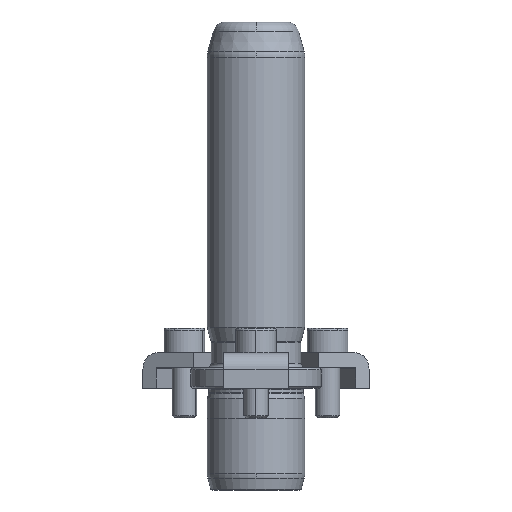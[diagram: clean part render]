
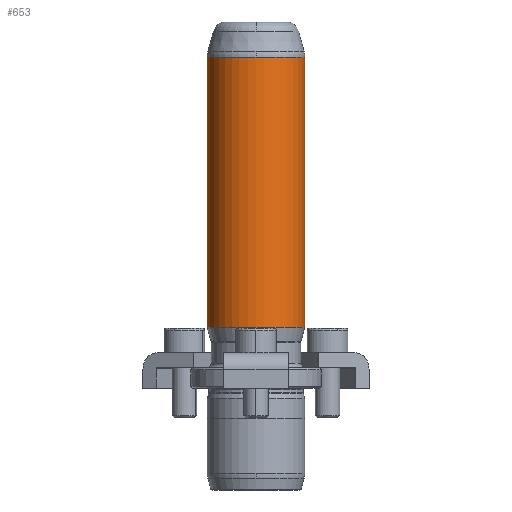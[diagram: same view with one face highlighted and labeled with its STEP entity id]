
A CAD part, front view. The second image highlights one B-rep face of the part: STEP entity #653.
In plain terms, the highlighted cylindrical face has radius 12 mm (diameter 24 mm), a partial arc.
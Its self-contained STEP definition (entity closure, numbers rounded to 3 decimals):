
#566=CARTESIAN_POINT('',(0.0,-12.,81.342));
#567=VERTEX_POINT('',#566);
#594=CARTESIAN_POINT('',(-12.0,0.,81.342));
#595=VERTEX_POINT('',#594);
#603=CARTESIAN_POINT('',(0.0,0.,81.342));
#604=DIRECTION('',(0.0,0.0,1.0));
#605=DIRECTION('',(1.0,0.0,0.0));
#606=AXIS2_PLACEMENT_3D('',#603,#604,#605);
#607=CIRCLE('',#606,12.0);
#608=EDGE_CURVE('',#595,#567,#607,.T.);
#613=CARTESIAN_POINT('',(0.0,0.,48.171));
#614=DIRECTION('',(0.0,0.,1.0));
#615=DIRECTION('',(1.0,0.0,0.0));
#616=AXIS2_PLACEMENT_3D('',#613,#614,#615);
#617=CYLINDRICAL_SURFACE('',#616,12.0);
#618=CARTESIAN_POINT('',(12.0,0.,81.342));
#619=VERTEX_POINT('',#618);
#620=CARTESIAN_POINT('',(12.0,0.,15.0));
#621=VERTEX_POINT('',#620);
#622=CARTESIAN_POINT('',(12.0,0.,81.342));
#623=DIRECTION('',(0.0,0.0,-1.0));
#624=VECTOR('',#623,66.342);
#625=LINE('',#622,#624);
#626=EDGE_CURVE('',#619,#621,#625,.T.);
#627=ORIENTED_EDGE('',*,*,#626,.F.);
#628=CARTESIAN_POINT('',(0.0,0.,81.342));
#629=DIRECTION('',(0.0,0.0,1.0));
#630=DIRECTION('',(1.0,0.0,0.0));
#631=AXIS2_PLACEMENT_3D('',#628,#629,#630);
#632=CIRCLE('',#631,12.0);
#633=EDGE_CURVE('',#567,#619,#632,.T.);
#634=ORIENTED_EDGE('',*,*,#633,.F.);
#635=ORIENTED_EDGE('',*,*,#608,.F.);
#636=CARTESIAN_POINT('',(-12.,0.,15.0));
#637=VERTEX_POINT('',#636);
#638=CARTESIAN_POINT('',(-12.0,0.,81.342));
#639=DIRECTION('',(0.0,0.0,-1.0));
#640=VECTOR('',#639,66.342);
#641=LINE('',#638,#640);
#642=EDGE_CURVE('',#595,#637,#641,.T.);
#643=ORIENTED_EDGE('',*,*,#642,.T.);
#644=CARTESIAN_POINT('',(0.0,0.,15.0));
#645=DIRECTION('',(0.0,0.0,1.0));
#646=DIRECTION('',(1.0,0.0,0.0));
#647=AXIS2_PLACEMENT_3D('',#644,#645,#646);
#648=CIRCLE('',#647,12.0);
#649=EDGE_CURVE('',#637,#621,#648,.T.);
#650=ORIENTED_EDGE('',*,*,#649,.T.);
#651=EDGE_LOOP('',(#627,#634,#635,#643,#650));
#652=FACE_OUTER_BOUND('',#651,.T.);
#653=ADVANCED_FACE('',(#652),#617,.T.);
